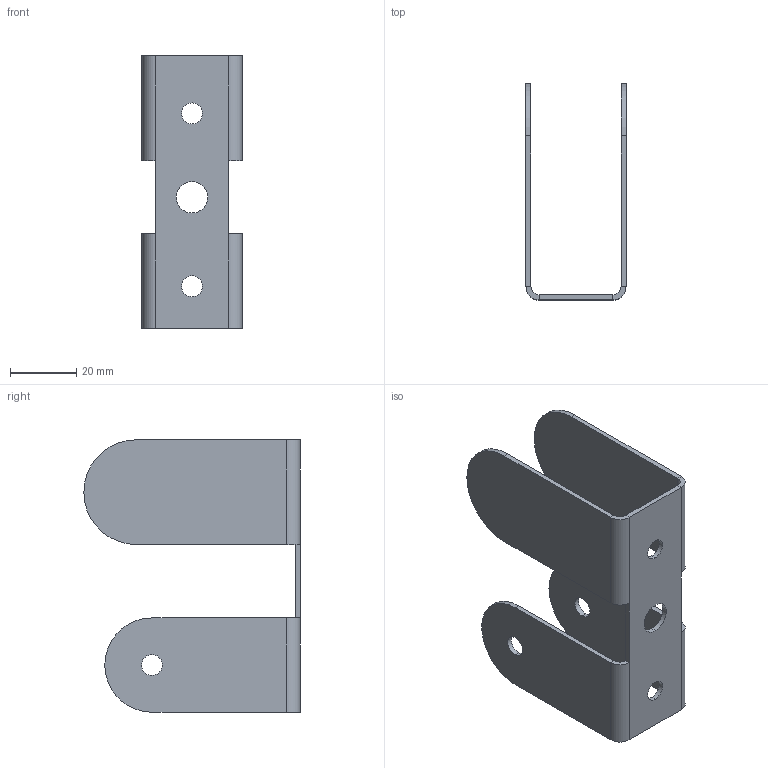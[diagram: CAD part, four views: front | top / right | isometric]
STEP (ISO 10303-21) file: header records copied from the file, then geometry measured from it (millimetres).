
FILE_DESCRIPTION (( 'STEP AP214' ), '1' );
FILE_NAME ('HUL-xx-SP1154 Bracket 2.STEP', '2016-11-22T22:50:55', ( '' ), ( '' ), 'SwSTEP 2.0', 'SolidWorks 2016', '' );
FILE_SCHEMA (( 'AUTOMOTIVE_DESIGN' ));
Length unit declared in the file: inch
Products named in the file (1): HUL-xx-SP1154 Bracket 2
Bounding box: 30.35 x 65.55 x 82.55 mm (x, y, z)
Volume: 13604.2 mm3; surface area: 19035.1 mm2
Topology: 1 solids, 1 shells, 52 faces, 118 edges, 68 vertices
Faces by surface type: plane 30, cylinder 22
Entity records: 1490 total; most frequent: DIRECTION 268, CARTESIAN_POINT 239, ORIENTED_EDGE 236, EDGE_CURVE 118, AXIS2_PLACEMENT_3D 97, VECTOR 74, LINE 74, VERTEX_POINT 68
